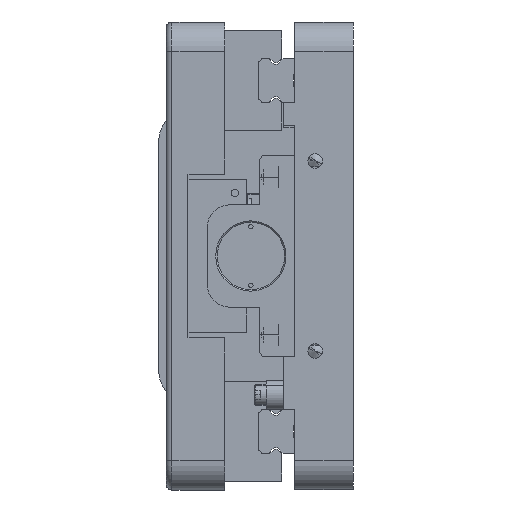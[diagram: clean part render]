
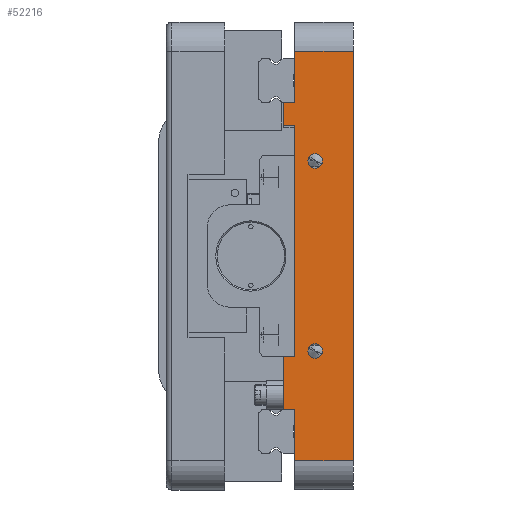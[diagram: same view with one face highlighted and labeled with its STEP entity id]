
A CAD part, left-side view. The second image highlights one B-rep face of the part: STEP entity #52216.
In plain terms, the highlighted planar face has unit normal (-1, 0, 0).
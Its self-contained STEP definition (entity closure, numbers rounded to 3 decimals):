
#74 = EDGE_CURVE ( 'NONE', #23266, #18292, #34170, .T. ) ;
#208 = CARTESIAN_POINT ( 'NONE',  ( -311.5, 20., -34.5 ) ) ;
#335 = VERTEX_POINT ( 'NONE', #46531 ) ;
#567 = CARTESIAN_POINT ( 'NONE',  ( -311.5, 20., 52.5 ) ) ;
#1613 = CIRCLE ( 'NONE', #31161, 2.5 ) ;
#1742 = CARTESIAN_POINT ( 'NONE',  ( -311.5, -110.209, -34.5 ) ) ;
#2511 = VERTEX_POINT ( 'NONE', #24520 ) ;
#3331 = AXIS2_PLACEMENT_3D ( 'NONE', #8727, #9087, #29553 ) ;
#3407 = FACE_OUTER_BOUND ( 'NONE', #4059, .T. ) ;
#4059 = EDGE_LOOP ( 'NONE', ( #10450, #50298, #15465, #11205, #42992, #37898, #25677, #4395, #5781, #27622, #46615, #23897 ) ) ;
#4395 = ORIENTED_EDGE ( 'NONE', *, *, #44764, .F. ) ;
#4531 = VECTOR ( 'NONE', #18881, 1000. ) ;
#4701 = AXIS2_PLACEMENT_3D ( 'NONE', #40796, #16778, #36848 ) ;
#5534 = LINE ( 'NONE', #50494, #21430 ) ;
#5781 = ORIENTED_EDGE ( 'NONE', *, *, #9509, .T. ) ;
#5828 = DIRECTION ( 'NONE',  ( 0., 1., 0. ) ) ;
#7445 = EDGE_CURVE ( 'NONE', #25856, #18292, #31548, .T. ) ;
#8358 = EDGE_CURVE ( 'NONE', #13369, #30509, #21222, .T. ) ;
#8727 = CARTESIAN_POINT ( 'NONE',  ( -311.5, 13., -32.5 ) ) ;
#9087 = DIRECTION ( 'NONE',  ( -1., 0., 0. ) ) ;
#9509 = EDGE_CURVE ( 'NONE', #2511, #25856, #49729, .T. ) ;
#10325 = CARTESIAN_POINT ( 'NONE',  ( -311.5, 20., -80. ) ) ;
#10450 = ORIENTED_EDGE ( 'NONE', *, *, #25848, .T. ) ;
#10566 = DIRECTION ( 'NONE',  ( 0., 1., 0. ) ) ;
#11205 = ORIENTED_EDGE ( 'NONE', *, *, #12819, .T. ) ;
#12306 = PLANE ( 'NONE',  #4701 ) ;
#12326 = CARTESIAN_POINT ( 'NONE',  ( -311.5, -110.209, 44.5 ) ) ;
#12384 = DIRECTION ( 'NONE',  ( 0., 0., 1. ) ) ;
#12561 = LINE ( 'NONE', #10325, #24042 ) ;
#12819 = EDGE_CURVE ( 'NONE', #335, #51585, #5534, .T. ) ;
#13369 = VERTEX_POINT ( 'NONE', #31401 ) ;
#13557 = VECTOR ( 'NONE', #20523, 1000. ) ;
#14072 = VECTOR ( 'NONE', #26201, 1000. ) ;
#15056 = EDGE_CURVE ( 'NONE', #46596, #23266, #25570, .T. ) ;
#15465 = ORIENTED_EDGE ( 'NONE', *, *, #40180, .T. ) ;
#15597 = EDGE_CURVE ( 'NONE', #16830, #28520, #33825, .T. ) ;
#16224 = CARTESIAN_POINT ( 'NONE',  ( -311.5, 20., -52.5 ) ) ;
#16778 = DIRECTION ( 'NONE',  ( 1., 0., 0. ) ) ;
#16830 = VERTEX_POINT ( 'NONE', #32436 ) ;
#17178 = LINE ( 'NONE', #46513, #14072 ) ;
#18292 = VERTEX_POINT ( 'NONE', #23979 ) ;
#18323 = VECTOR ( 'NONE', #12384, 1000. ) ;
#18881 = DIRECTION ( 'NONE',  ( 0., -1., 0. ) ) ;
#19374 = CARTESIAN_POINT ( 'NONE',  ( -311.5, 0., -70. ) ) ;
#19705 = DIRECTION ( 'NONE',  ( 0., 1., 0. ) ) ;
#19922 = CARTESIAN_POINT ( 'NONE',  ( -311.5, 23.8, -52.5 ) ) ;
#19961 = FACE_BOUND ( 'NONE', #43447, .T. ) ;
#20523 = DIRECTION ( 'NONE',  ( 0., 1., 0. ) ) ;
#20997 = VERTEX_POINT ( 'NONE', #42690 ) ;
#21222 = CIRCLE ( 'NONE', #3331, 2.5 ) ;
#21430 = VECTOR ( 'NONE', #22177, 1000. ) ;
#21964 = DIRECTION ( 'NONE',  ( -1., 0., 0. ) ) ;
#21994 = CARTESIAN_POINT ( 'NONE',  ( -311.5, 13., -30. ) ) ;
#22177 = DIRECTION ( 'NONE',  ( 0., 1., 0. ) ) ;
#23160 = EDGE_CURVE ( 'NONE', #20997, #35440, #37628, .T. ) ;
#23266 = VERTEX_POINT ( 'NONE', #19922 ) ;
#23450 = CARTESIAN_POINT ( 'NONE',  ( -311.5, 23.8, -70. ) ) ;
#23897 = ORIENTED_EDGE ( 'NONE', *, *, #15056, .F. ) ;
#23979 = CARTESIAN_POINT ( 'NONE',  ( -311.5, 23.8, -34.5 ) ) ;
#24042 = VECTOR ( 'NONE', #38812, 1000. ) ;
#24091 = VECTOR ( 'NONE', #19705, 1000. ) ;
#24520 = CARTESIAN_POINT ( 'NONE',  ( -311.5, 20., 44.5 ) ) ;
#25570 = LINE ( 'NONE', #30865, #30060 ) ;
#25677 = ORIENTED_EDGE ( 'NONE', *, *, #36158, .F. ) ;
#25848 = EDGE_CURVE ( 'NONE', #46596, #20997, #12561, .T. ) ;
#25856 = VERTEX_POINT ( 'NONE', #208 ) ;
#26201 = DIRECTION ( 'NONE',  ( 0., 0., 1. ) ) ;
#26205 = DIRECTION ( 'NONE',  ( 0., 0., -1. ) ) ;
#26656 = DIRECTION ( 'NONE',  ( 0., 0., 1. ) ) ;
#26697 = VECTOR ( 'NONE', #27621, 1000. ) ;
#26858 = CARTESIAN_POINT ( 'NONE',  ( -311.5, 13., 35. ) ) ;
#27282 = LINE ( 'NONE', #43903, #24091 ) ;
#27612 = ORIENTED_EDGE ( 'NONE', *, *, #29982, .F. ) ;
#27621 = DIRECTION ( 'NONE',  ( 0., 0., -1. ) ) ;
#27622 = ORIENTED_EDGE ( 'NONE', *, *, #7445, .T. ) ;
#28005 = EDGE_CURVE ( 'NONE', #29898, #40690, #27282, .T. ) ;
#28385 = CARTESIAN_POINT ( 'NONE',  ( -311.5, 23.8, -80. ) ) ;
#28520 = VERTEX_POINT ( 'NONE', #26858 ) ;
#28577 = LINE ( 'NONE', #30790, #36861 ) ;
#29010 = DIRECTION ( 'NONE',  ( -1., 0., 0. ) ) ;
#29553 = DIRECTION ( 'NONE',  ( 0., 0., 1. ) ) ;
#29732 = CARTESIAN_POINT ( 'NONE',  ( -311.5, 23.8, 52.5 ) ) ;
#29898 = VERTEX_POINT ( 'NONE', #567 ) ;
#29982 = EDGE_CURVE ( 'NONE', #30509, #13369, #1613, .T. ) ;
#30060 = VECTOR ( 'NONE', #10566, 1000. ) ;
#30509 = VERTEX_POINT ( 'NONE', #21994 ) ;
#30790 = CARTESIAN_POINT ( 'NONE',  ( -311.5, 23.8, -80. ) ) ;
#30865 = CARTESIAN_POINT ( 'NONE',  ( -311.5, -623.607, -52.5 ) ) ;
#31161 = AXIS2_PLACEMENT_3D ( 'NONE', #41133, #29010, #33111 ) ;
#31401 = CARTESIAN_POINT ( 'NONE',  ( -311.5, 13., -35. ) ) ;
#31548 = LINE ( 'NONE', #1742, #51938 ) ;
#31942 = ORIENTED_EDGE ( 'NONE', *, *, #8358, .F. ) ;
#32436 = CARTESIAN_POINT ( 'NONE',  ( -311.5, 13., 30. ) ) ;
#33111 = DIRECTION ( 'NONE',  ( 0., 0., 1. ) ) ;
#33825 = CIRCLE ( 'NONE', #51746, 2.5 ) ;
#34053 = CARTESIAN_POINT ( 'NONE',  ( -311.5, 23.8, 44.5 ) ) ;
#34170 = LINE ( 'NONE', #28385, #18323 ) ;
#34441 = CARTESIAN_POINT ( 'NONE',  ( -311.5, 13., 32.5 ) ) ;
#35060 = LINE ( 'NONE', #39232, #26697 ) ;
#35228 = LINE ( 'NONE', #12326, #13557 ) ;
#35440 = VERTEX_POINT ( 'NONE', #19374 ) ;
#35442 = AXIS2_PLACEMENT_3D ( 'NONE', #34441, #21964, #38187 ) ;
#35681 = EDGE_CURVE ( 'NONE', #28520, #16830, #40718, .T. ) ;
#36158 = EDGE_CURVE ( 'NONE', #51722, #40690, #28577, .T. ) ;
#36730 = CARTESIAN_POINT ( 'NONE',  ( -311.5, 20., 70. ) ) ;
#36848 = DIRECTION ( 'NONE',  ( 0., 0., -1. ) ) ;
#36861 = VECTOR ( 'NONE', #26656, 1000. ) ;
#37628 = LINE ( 'NONE', #23450, #4531 ) ;
#37898 = ORIENTED_EDGE ( 'NONE', *, *, #28005, .T. ) ;
#38187 = DIRECTION ( 'NONE',  ( 0., 0., 1. ) ) ;
#38812 = DIRECTION ( 'NONE',  ( 0., 0., -1. ) ) ;
#39232 = CARTESIAN_POINT ( 'NONE',  ( -311.5, 20., 80. ) ) ;
#39718 = CARTESIAN_POINT ( 'NONE',  ( -311.5, 13., 32.5 ) ) ;
#40180 = EDGE_CURVE ( 'NONE', #35440, #335, #17178, .T. ) ;
#40304 = EDGE_CURVE ( 'NONE', #51585, #29898, #35060, .T. ) ;
#40690 = VERTEX_POINT ( 'NONE', #29732 ) ;
#40718 = CIRCLE ( 'NONE', #35442, 2.5 ) ;
#40796 = CARTESIAN_POINT ( 'NONE',  ( -311.5, 23.8, -80. ) ) ;
#41015 = EDGE_LOOP ( 'NONE', ( #27612, #31942 ) ) ;
#41133 = CARTESIAN_POINT ( 'NONE',  ( -311.5, 13., -32.5 ) ) ;
#42080 = VECTOR ( 'NONE', #26205, 1000. ) ;
#42690 = CARTESIAN_POINT ( 'NONE',  ( -311.5, 20., -70. ) ) ;
#42970 = CARTESIAN_POINT ( 'NONE',  ( -311.5, 20., 44.5 ) ) ;
#42992 = ORIENTED_EDGE ( 'NONE', *, *, #40304, .T. ) ;
#43447 = EDGE_LOOP ( 'NONE', ( #49302, #45092 ) ) ;
#43460 = DIRECTION ( 'NONE',  ( -1., 0., 0. ) ) ;
#43903 = CARTESIAN_POINT ( 'NONE',  ( -311.5, -623.607, 52.5 ) ) ;
#44764 = EDGE_CURVE ( 'NONE', #2511, #51722, #35228, .T. ) ;
#45092 = ORIENTED_EDGE ( 'NONE', *, *, #15597, .F. ) ;
#46513 = CARTESIAN_POINT ( 'NONE',  ( -311.5, 0., -80. ) ) ;
#46531 = CARTESIAN_POINT ( 'NONE',  ( -311.5, 0., 70. ) ) ;
#46596 = VERTEX_POINT ( 'NONE', #16224 ) ;
#46615 = ORIENTED_EDGE ( 'NONE', *, *, #74, .F. ) ;
#49302 = ORIENTED_EDGE ( 'NONE', *, *, #35681, .F. ) ;
#49729 = LINE ( 'NONE', #42970, #42080 ) ;
#49864 = FACE_BOUND ( 'NONE', #41015, .T. ) ;
#50298 = ORIENTED_EDGE ( 'NONE', *, *, #23160, .T. ) ;
#50494 = CARTESIAN_POINT ( 'NONE',  ( -311.5, 23.8, 70. ) ) ;
#51585 = VERTEX_POINT ( 'NONE', #36730 ) ;
#51624 = DIRECTION ( 'NONE',  ( 0., 0., 1. ) ) ;
#51722 = VERTEX_POINT ( 'NONE', #34053 ) ;
#51746 = AXIS2_PLACEMENT_3D ( 'NONE', #39718, #43460, #51624 ) ;
#51938 = VECTOR ( 'NONE', #5828, 1000. ) ;
#52216 = ADVANCED_FACE ( 'NONE', ( #49864, #19961, #3407 ), #12306, .F. ) ;
